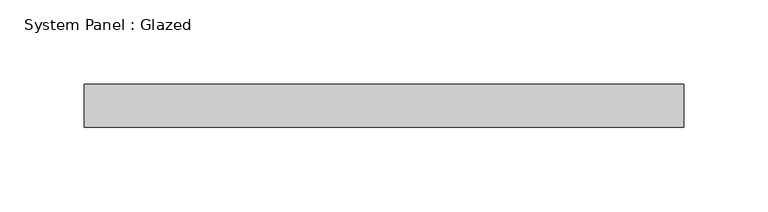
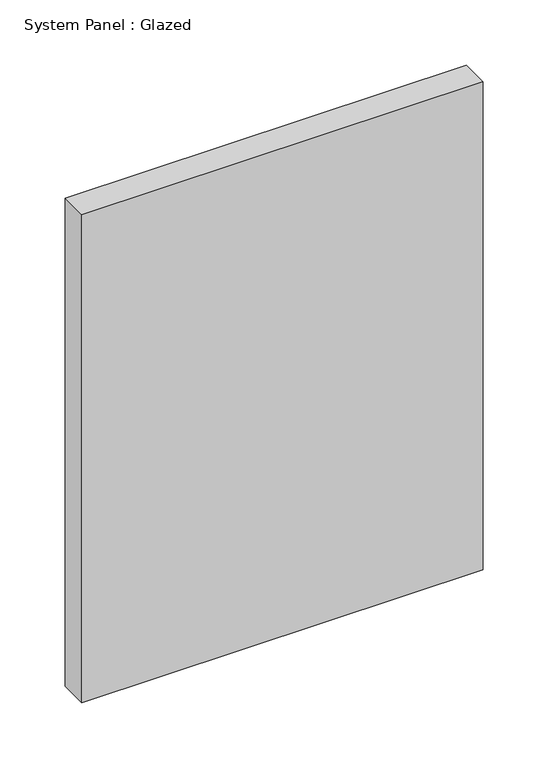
"""IFC4 building model written with IfcOpenShell, lengths in millimetres: plate geometry, System Panel : Glazed."""

import ifcopenshell
import ifcopenshell.guid

model = None  # the IFC model being written
_history = None  # IfcOwnerHistory: only IFC2X3 demands one
_inside = {}  # id of a spatial element -> (the spatial element, [elements in it])
_under = {}  # id of a project, library or spatial element -> (it, [spatial elements below it])
_declared = {}  # id of a project -> (the project, [libraries it declares])
_typed = {}  # id of a type object -> (the type object, [elements of that type])
_made_of = {}  # id of a material, layer set ... -> (it, [elements and type objects made of it])


def new_model(schema):
    """Start an empty IFC model of exactly this schema.

    Asked for "IFC4X3", IfcOpenShell would pick the latest addendum, in which some entities
    have other attributes; the version numbers below select the first issue.
    IFC2X3 requires an IfcOwnerHistory on every rooted entity: one is made here for all.
    """
    global model, _history
    if schema == "IFC4X3":
        model = ifcopenshell.file(schema_version=(4, 3, 0, 0))
    else:
        model = ifcopenshell.file(schema=schema)
    _inside.clear()
    _under.clear()
    _declared.clear()
    _typed.clear()
    _made_of.clear()
    _history = None
    if model.schema == "IFC2X3":
        org = make("IfcOrganization", Name="unknown")
        user = make(
            "IfcPersonAndOrganization",
            ThePerson=make("IfcPerson", FamilyName="unknown"),
            TheOrganization=org,
        )
        app = make(
            "IfcApplication",
            ApplicationDeveloper=org,
            Version="unknown",
            ApplicationFullName="unknown",
            ApplicationIdentifier="unknown",
        )
        _history = make(
            "IfcOwnerHistory",
            OwningUser=user,
            OwningApplication=app,
            ChangeAction="ADDED",
            CreationDate=0,
        )
    return model


def make(cls, **values):
    """One entity of the class cls with the attributes given. An attribute that is None is left unset."""
    return model.create_entity(
        cls, **{name: value for name, value in values.items() if value is not None}
    )


def rooted(cls, **values):
    """An entity with a GlobalId (a new one), such as an element, a storey or a relation."""
    return make(cls, GlobalId=ifcopenshell.guid.new(), OwnerHistory=_history, **values)


def si_unit(unit_type, name, prefix=None):
    """IfcSIUnit, for example si_unit("LENGTHUNIT", "METRE", prefix="MILLI")."""
    return make("IfcSIUnit", UnitType=unit_type, Prefix=prefix, Name=name)


def assignment(units):
    """IfcUnitAssignment: the units of a project."""
    return None if units is None else make("IfcUnitAssignment", Units=units)


def point(xyz):
    """IfcCartesianPoint."""
    return None if xyz is None else make("IfcCartesianPoint", Coordinates=xyz)


def direction(xyz):
    """IfcDirection."""
    return None if xyz is None else make("IfcDirection", DirectionRatios=xyz)


def frame(location, z_axis=None, x_axis=None):
    """IfcAxis2Placement3D, a coordinate frame: its origin and axes. An axis left out is left unset."""
    return make(
        "IfcAxis2Placement3D",
        Location=point(location),
        Axis=direction(z_axis),
        RefDirection=direction(x_axis),
    )


def origin():
    """The frame at (0, 0, 0) with its axes left unset."""
    return frame((0.0, 0.0, 0.0))


def origin_with_axes():
    """The frame at (0, 0, 0) with the z axis (0, 0, 1) and the x axis (1, 0, 0) written out."""
    return frame((0.0, 0.0, 0.0), z_axis=(0.0, 0.0, 1.0), x_axis=(1.0, 0.0, 0.0))


def place(relative_to, where):
    """IfcLocalPlacement: puts the frame where relative to a parent placement (None: the world)."""
    return make(
        "IfcLocalPlacement", PlacementRelTo=relative_to, RelativePlacement=where
    )


def context(
    kind, dimensions, precision=None, world=None, true_north=None, identifier=None
):
    """IfcGeometricRepresentationContext, for example the 3D "Model" context."""
    return make(
        "IfcGeometricRepresentationContext",
        ContextIdentifier=identifier,
        ContextType=kind,
        CoordinateSpaceDimension=dimensions,
        Precision=precision,
        WorldCoordinateSystem=world,
        TrueNorth=true_north,
    )


def project(units=None, contexts=None):
    """IfcProject with its units and contexts."""
    return rooted(
        "IfcProject",
        Name="project",
        RepresentationContexts=contexts,
        UnitsInContext=assignment(units),
    )


def spatial(cls, under=None, at=None, **own):
    """A site, building, storey or space (cls), placed at a placement, below another one or the project."""
    s = rooted(cls, ObjectPlacement=at, **own)
    if under is not None:
        _under.setdefault(under.id(), (under, []))[1].append(s)
    return s


def polyline(points):
    """IfcPolyline through the points."""
    return make("IfcPolyline", Points=[point(p) for p in points])


def outline(outer, holes=None, kind="AREA"):
    """IfcArbitraryClosedProfileDef: a profile drawn as a closed curve; with holes, ...WithVoids."""
    if holes is None:
        return make("IfcArbitraryClosedProfileDef", ProfileType=kind, OuterCurve=outer)
    return make(
        "IfcArbitraryProfileDefWithVoids",
        ProfileType=kind,
        OuterCurve=outer,
        InnerCurves=holes,
    )


def extrude(swept, where, along, depth):
    """IfcExtrudedAreaSolid: the profile swept, set in the frame where, extruded along a direction by depth."""
    return make(
        "IfcExtrudedAreaSolid",
        SweptArea=swept,
        Position=where,
        ExtrudedDirection=direction(along),
        Depth=depth,
    )


def shape(context_of_items, identifier, shape_type, items):
    """IfcShapeRepresentation: the items that make up one representation, for example the "Body"."""
    return make(
        "IfcShapeRepresentation",
        ContextOfItems=context_of_items,
        RepresentationIdentifier=identifier,
        RepresentationType=shape_type,
        Items=items,
    )


def source(mapping_origin, context_of_items, identifier, shape_type, items):
    """IfcRepresentationMap: a shape defined once, which mapped items show again and again."""
    return make(
        "IfcRepresentationMap",
        MappingOrigin=mapping_origin,
        MappedRepresentation=shape(context_of_items, identifier, shape_type, items),
    )


def transform(
    local_origin,
    x_axis=None,
    y_axis=None,
    z_axis=None,
    scale=None,
    scale2=None,
    scale3=None,
    uniform=True,
):
    """IfcCartesianTransformationOperator3D, or its non-uniform kind. x_axis, y_axis, z_axis: its Axis1, 2, 3."""
    if uniform:
        return make(
            "IfcCartesianTransformationOperator3D",
            Axis1=direction(x_axis),
            Axis2=direction(y_axis),
            LocalOrigin=point(local_origin),
            Scale=scale,
            Axis3=direction(z_axis),
        )
    return make(
        "IfcCartesianTransformationOperator3DnonUniform",
        Axis1=direction(x_axis),
        Axis2=direction(y_axis),
        LocalOrigin=point(local_origin),
        Scale=scale,
        Axis3=direction(z_axis),
        Scale2=scale2,
        Scale3=scale3,
    )


def mapped(mapping_source, mapping_target):
    """IfcMappedItem: shows the shape of a source again, moved by a transform."""
    return make(
        "IfcMappedItem", MappingSource=mapping_source, MappingTarget=mapping_target
    )


def made_of(thing, what):
    """Note that an element or type object is made of a material, layer set ...; save() writes the relation."""
    if what is not None:
        _made_of.setdefault(what.id(), (what, []))[1].append(thing)
    return thing


def element(
    cls,
    number,
    at=None,
    inside=None,
    cuts=None,
    type_object=None,
    material=None,
    context=None,
    identifier="Body",
    shape_type=None,
    held_by="IfcProductDefinitionShape",
    body=None,
    shapes=None,
    **own,
):
    """One element of the class cls, such as IfcWall. Its Tag is "e" and its number.

    at: its placement. inside: the storey or other place that contains it. cuts: it is an
    opening in that element (IfcRelVoidsElement). A single representation is given by context,
    identifier, shape_type and body (its items); several are given by shapes. held_by: the class
    of the entity that holds the representations. save() writes the other relations.
    """
    e = rooted(cls, Tag="e%d" % number, ObjectPlacement=at, **own)
    if body is not None:
        shapes = [shape(context, identifier, shape_type, body)]
    if shapes is not None:
        e.Representation = make(held_by, Representations=shapes)
    if inside is not None:
        _inside.setdefault(inside.id(), (inside, []))[1].append(e)
    if cuts is not None:
        rooted(
            "IfcRelVoidsElement", RelatingBuildingElement=cuts, RelatedOpeningElement=e
        )
    if type_object is not None:
        _typed.setdefault(type_object.id(), (type_object, []))[1].append(e)
    return made_of(e, material)


def aggregate(whole, parts):
    """IfcRelAggregates: a whole, such as a stair, and the parts it consists of."""
    return rooted("IfcRelAggregates", RelatingObject=whole, RelatedObjects=parts)


def save(model, path):
    """Write the relations noted so far, then the file.

    IfcRelAggregates (storeys below a building ...), IfcRelContainedInSpatialStructure (elements
    in a storey), IfcRelDefinesByType, IfcRelAssociatesMaterial and IfcRelDeclares: one each for
    every whole, place, type object, material and project.
    """
    for whole, parts in _under.values():
        aggregate(whole, parts)
    for where, things in _inside.values():
        rooted(
            "IfcRelContainedInSpatialStructure",
            RelatedElements=things,
            RelatingStructure=where,
        )
    for kind, things in _typed.values():
        rooted("IfcRelDefinesByType", RelatedObjects=things, RelatingType=kind)
    for what, things in _made_of.values():
        rooted("IfcRelAssociatesMaterial", RelatedObjects=things, RelatingMaterial=what)
    for by, libraries in _declared.values():
        rooted("IfcRelDeclares", RelatingContext=by, RelatedDefinitions=libraries)
    model.write(path)


def system_panel_glazed_656c6057(model_context):
    return source(origin(), model_context, "Body", "SweptSolid", [
        extrude(outline(polyline([(177.8000002, 19.05), (-177.8000002, 19.05), (-177.8000002, 44.45), (177.8000002, 44.45), (177.8000002, 19.05)])), origin_with_axes(), (0.0, 0.0, 1.0), 457.2),
    ])


if __name__ == "__main__":
    model = new_model("IFC4")
    model_context = context("Model", 3, world=origin())
    ifc_project = project(units=[si_unit("LENGTHUNIT", "METRE", prefix="MILLI")], contexts=[model_context])
    site = spatial("IfcSite", under=ifc_project)
    building = spatial("IfcBuilding", under=site)
    placement = place(None, origin())
    system_panel_glazed_shape = system_panel_glazed_656c6057(model_context)
    element("IfcPlate", 1, ObjectType="System Panel : Glazed", at=placement, inside=building, context=model_context, shape_type="MappedRepresentation", body=[
        mapped(system_panel_glazed_shape, transform((0.0, 0.0, 0.0), x_axis=(1.0, 0.0, 0.0), y_axis=(0.0, 1.0, 0.0), z_axis=(0.0, 0.0, 1.0))),
    ])
    save(model, "model.ifc")
